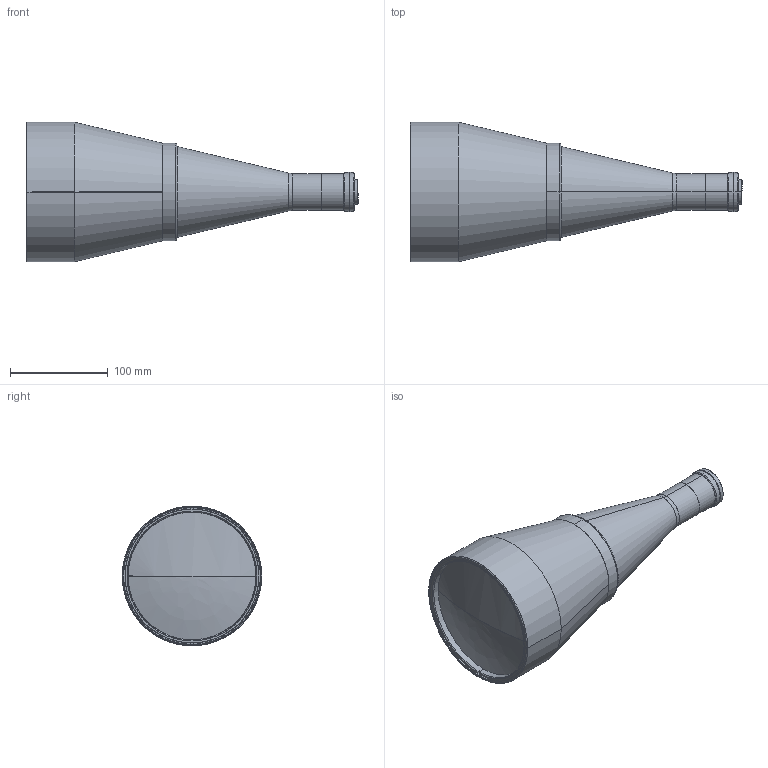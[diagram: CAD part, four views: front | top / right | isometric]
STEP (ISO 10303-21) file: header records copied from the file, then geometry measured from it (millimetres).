
FILE_DESCRIPTION(('LS-TCL-0248'),'2;1');
FILE_NAME('LS-TCL-0248.stp','2026-10-15T21:55:00',('LumaSpec Vision'),('LumaSpec Vision'),'LumaSpec Vision','LumaSpec Vision','');
FILE_SCHEMA(('AUTOMOTIVE_DESIGN { 1 0 10303 214 1 1 1 1 }'));
Length unit declared in the file: millimetre
Products named in the file (69): LumaSpec Vision
Assembly tree (68 placements, depth 2):
  LumaSpec Vision
    LumaSpec Vision
    LumaSpec Vision
    LumaSpec Vision
    LumaSpec Vision
    LumaSpec Vision
    LumaSpec Vision
    LumaSpec Vision
    LumaSpec Vision
    LumaSpec Vision
    LumaSpec Vision
    LumaSpec Vision
    LumaSpec Vision
    LumaSpec Vision
    LumaSpec Vision
    LumaSpec Vision
    LumaSpec Vision
    LumaSpec Vision
    LumaSpec Vision
    LumaSpec Vision
    LumaSpec Vision
    LumaSpec Vision
    LumaSpec Vision
    LumaSpec Vision
    LumaSpec Vision
    LumaSpec Vision
    LumaSpec Vision
    LumaSpec Vision
    LumaSpec Vision
    LumaSpec Vision
    LumaSpec Vision
    LumaSpec Vision
    LumaSpec Vision
    LumaSpec Vision
    LumaSpec Vision
    LumaSpec Vision
    LumaSpec Vision
    LumaSpec Vision
    LumaSpec Vision
    LumaSpec Vision
    LumaSpec Vision
    LumaSpec Vision
    LumaSpec Vision
    LumaSpec Vision
    LumaSpec Vision
    LumaSpec Vision
    LumaSpec Vision
    LumaSpec Vision
    LumaSpec Vision
    LumaSpec Vision
    LumaSpec Vision
    LumaSpec Vision
    LumaSpec Vision
    LumaSpec Vision
    LumaSpec Vision
    LumaSpec Vision
    LumaSpec Vision
    LumaSpec Vision
    LumaSpec Vision
    LumaSpec Vision
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Bounding box: 340.3 x 143 x 143 mm (x, y, z)
Surface area: 130210.6 mm2 (no closed solid volume)
Topology: 0 solids, 68 shells, 68 faces, 1748 edges, 1745 vertices
Faces by surface type: revolution 44, bspline 24
Entity records: 28231 total; most frequent: CARTESIAN_POINT 11910, B_SPLINE_CURVE_WITH_KNOTS 3258, ORIENTED_EDGE 1745, EDGE_CURVE 1745, VERTEX_POINT 1745, SURFACE_CURVE 1745, PCURVE 1745, DEFINITIONAL_REPRESENTATION 1745
